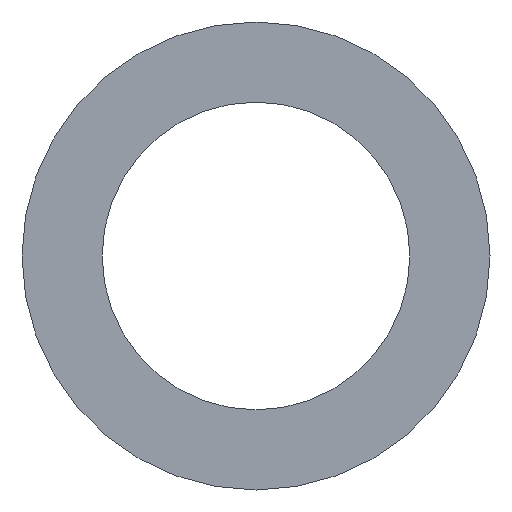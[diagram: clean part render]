
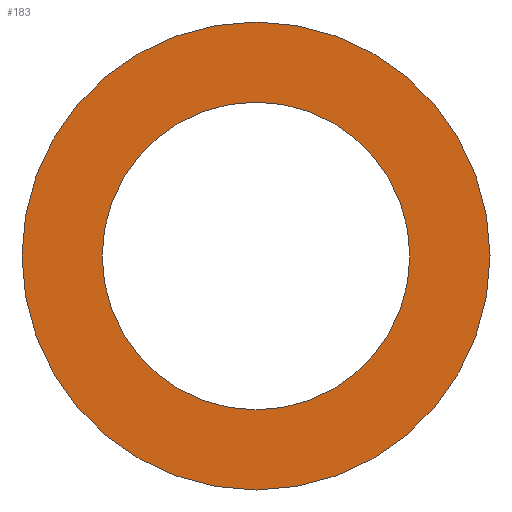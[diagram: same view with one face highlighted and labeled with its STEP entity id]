
A CAD part, left-side view. The second image highlights one B-rep face of the part: STEP entity #183.
In plain terms, the highlighted planar face has unit normal (-1, 0, 0).
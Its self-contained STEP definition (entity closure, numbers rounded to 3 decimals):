
#33=CARTESIAN_POINT('',(0.,134.,0.));
#34=VERTEX_POINT('',#33);
#41=CARTESIAN_POINT('',(0.,0.,0.));
#42=DIRECTION('',(1.,0.,0.));
#43=DIRECTION('',(0.,1.,0.));
#44=AXIS2_PLACEMENT_3D('',#41,#42,#43);
#45=CIRCLE('',#44,134.);
#46=EDGE_CURVE('',#34,#34,#45,.T.);
#148=CARTESIAN_POINT('',(0.,88.1,0.));
#149=VERTEX_POINT('',#148);
#156=CARTESIAN_POINT('',(0.,0.,0.));
#157=DIRECTION('',(1.,0.,0.));
#158=DIRECTION('',(0.,1.,0.));
#159=AXIS2_PLACEMENT_3D('',#156,#157,#158);
#160=CIRCLE('',#159,88.1);
#161=EDGE_CURVE('',#149,#149,#160,.T.);
#172=ORIENTED_EDGE('',*,*,#46,.F.);
#173=EDGE_LOOP('',(#172));
#174=FACE_OUTER_BOUND('',#173,.T.);
#175=ORIENTED_EDGE('',*,*,#161,.T.);
#176=EDGE_LOOP('',(#175));
#177=FACE_BOUND('',#176,.T.);
#178=CARTESIAN_POINT('',(0.,111.05,0.));
#179=DIRECTION('',(-1.,0.,0.));
#180=DIRECTION('',(0.,-1.,0.));
#181=AXIS2_PLACEMENT_3D('',#178,#179,#180);
#182=PLANE('',#181);
#183=ADVANCED_FACE('',(#174,#177),#182,.T.);
